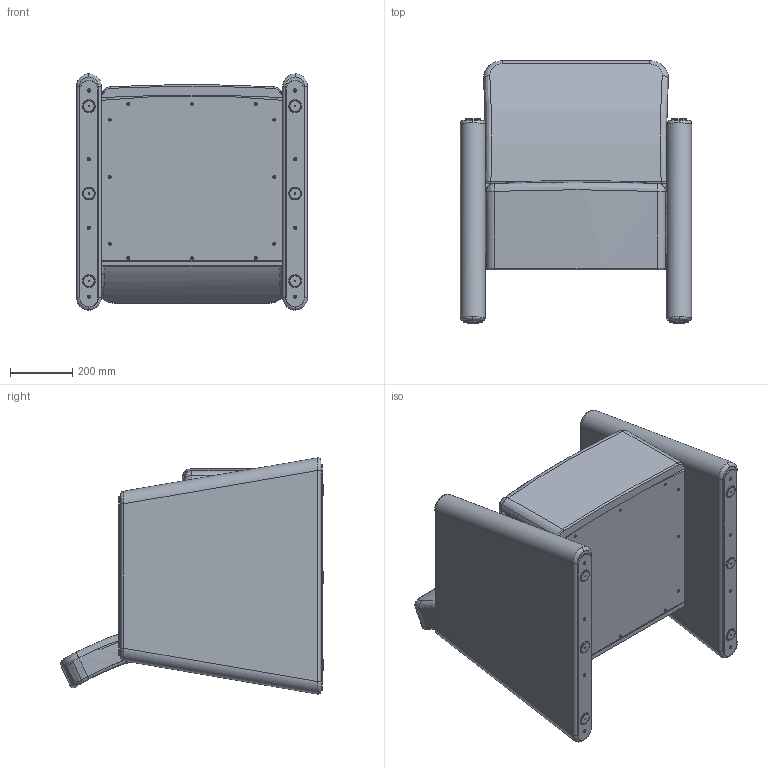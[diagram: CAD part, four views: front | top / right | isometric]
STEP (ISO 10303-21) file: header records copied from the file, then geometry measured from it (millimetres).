
FILE_DESCRIPTION(/* description */ ('STEP AP214'),/* implementation_level */ '2;1');
FILE_NAME(/* name */ 'Shore BH Chair - STEP (Simplified).stp',/* time_stamp */ '2026-05-20T15:22:12+03:00',/* author */ ('Brian.Thangei'),/* organization */ (''),/* preprocessor_version */ 'ST-DEVELOPER v20',/* originating_system */ 'Autodesk Inventor 2025',/* authorisation */ '');
FILE_SCHEMA (('AUTOMOTIVE_DESIGN { 1 0 10303 214 3 1 1 }'));
Length unit declared in the file: millimetre
Products named in the file (1): Shore BH Chair (Simplified)
Bounding box: 740 x 840.12 x 756.46 mm (x, y, z)
Volume: 69792203.4 mm3; surface area: 7039015.5 mm2
Topology: 17 solids, 17 shells, 381 faces, 864 edges, 531 vertices
Faces by surface type: plane 147, cylinder 145, bspline 36, torus 29, cone 24
Full cylindrical faces by diameter (mm): 3 x4, 4.5 x34, 5 x4, 5.5 x8, 10 x4, 38 x6, 41 x6
Entity records: 19200 total; most frequent: CARTESIAN_POINT 10441, DIRECTION 1855, ORIENTED_EDGE 1728, EDGE_CURVE 864, AXIS2_PLACEMENT_3D 735, VERTEX_POINT 531, EDGE_LOOP 495, LINE 385
